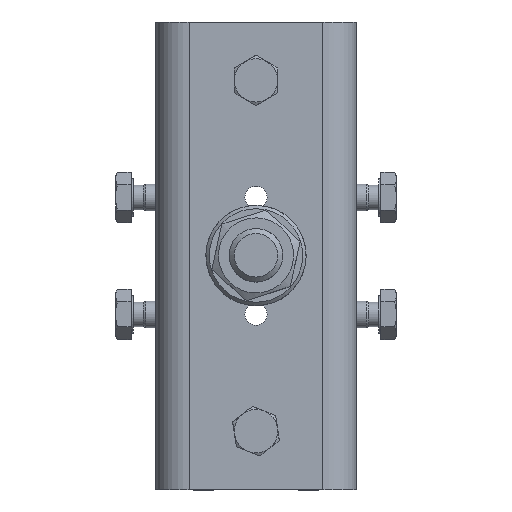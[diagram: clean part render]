
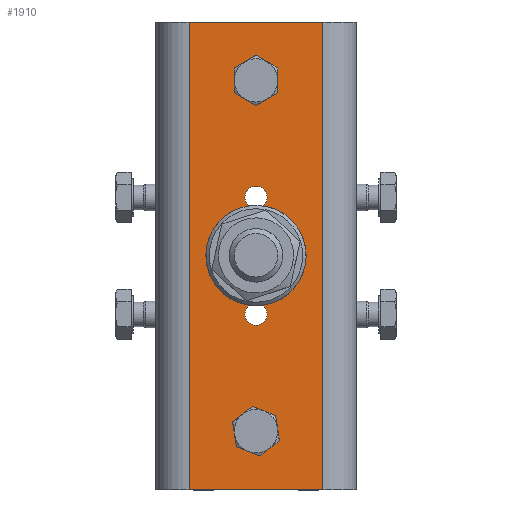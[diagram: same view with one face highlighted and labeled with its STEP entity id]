
A CAD part, top view. The second image highlights one B-rep face of the part: STEP entity #1910.
In plain terms, the highlighted planar face has unit normal (0, 0, 1).
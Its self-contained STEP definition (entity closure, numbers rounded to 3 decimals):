
#137=FACE_BOUND('',#359,.T.);
#138=FACE_BOUND('',#360,.T.);
#139=FACE_BOUND('',#361,.T.);
#140=FACE_BOUND('',#362,.T.);
#170=PLANE('',#2162);
#239=FACE_OUTER_BOUND('',#358,.T.);
#358=EDGE_LOOP('',(#1353,#1354,#1355,#1356));
#359=EDGE_LOOP('',(#1357,#1358));
#360=EDGE_LOOP('',(#1359,#1360));
#361=EDGE_LOOP('',(#1361,#1362));
#362=EDGE_LOOP('',(#1363,#1364));
#507=LINE('',#3076,#644);
#509=LINE('',#3080,#646);
#510=LINE('',#3082,#647);
#511=LINE('',#3083,#648);
#644=VECTOR('',#2442,10.);
#646=VECTOR('',#2446,10.);
#647=VECTOR('',#2447,10.);
#648=VECTOR('',#2448,10.);
#782=CIRCLE('',#2163,3.324);
#783=CIRCLE('',#2164,3.324);
#784=CIRCLE('',#2165,3.324);
#785=CIRCLE('',#2166,3.324);
#786=CIRCLE('',#2167,3.324);
#787=CIRCLE('',#2168,3.324);
#788=CIRCLE('',#2169,3.324);
#789=CIRCLE('',#2170,3.324);
#892=VERTEX_POINT('',#3060);
#895=VERTEX_POINT('',#3067);
#897=VERTEX_POINT('',#3079);
#898=VERTEX_POINT('',#3081);
#899=VERTEX_POINT('',#3084);
#900=VERTEX_POINT('',#3085);
#901=VERTEX_POINT('',#3088);
#902=VERTEX_POINT('',#3089);
#903=VERTEX_POINT('',#3092);
#904=VERTEX_POINT('',#3093);
#905=VERTEX_POINT('',#3096);
#906=VERTEX_POINT('',#3097);
#1068=EDGE_CURVE('',#892,#895,#507,.T.);
#1070=EDGE_CURVE('',#895,#897,#509,.T.);
#1071=EDGE_CURVE('',#897,#898,#510,.T.);
#1072=EDGE_CURVE('',#898,#892,#511,.T.);
#1073=EDGE_CURVE('',#899,#900,#782,.T.);
#1074=EDGE_CURVE('',#900,#899,#783,.T.);
#1075=EDGE_CURVE('',#901,#902,#784,.T.);
#1076=EDGE_CURVE('',#902,#901,#785,.T.);
#1077=EDGE_CURVE('',#903,#904,#786,.T.);
#1078=EDGE_CURVE('',#904,#903,#787,.T.);
#1079=EDGE_CURVE('',#905,#906,#788,.T.);
#1080=EDGE_CURVE('',#906,#905,#789,.T.);
#1353=ORIENTED_EDGE('',*,*,#1068,.T.);
#1354=ORIENTED_EDGE('',*,*,#1070,.T.);
#1355=ORIENTED_EDGE('',*,*,#1071,.T.);
#1356=ORIENTED_EDGE('',*,*,#1072,.T.);
#1357=ORIENTED_EDGE('',*,*,#1073,.T.);
#1358=ORIENTED_EDGE('',*,*,#1074,.T.);
#1359=ORIENTED_EDGE('',*,*,#1075,.T.);
#1360=ORIENTED_EDGE('',*,*,#1076,.T.);
#1361=ORIENTED_EDGE('',*,*,#1077,.T.);
#1362=ORIENTED_EDGE('',*,*,#1078,.T.);
#1363=ORIENTED_EDGE('',*,*,#1079,.T.);
#1364=ORIENTED_EDGE('',*,*,#1080,.T.);
#1910=ADVANCED_FACE('',(#239,#137,#138,#139,#140),#170,.T.);
#2162=AXIS2_PLACEMENT_3D('',#3078,#2444,#2445);
#2163=AXIS2_PLACEMENT_3D('',#3086,#2449,#2450);
#2164=AXIS2_PLACEMENT_3D('',#3087,#2451,#2452);
#2165=AXIS2_PLACEMENT_3D('',#3090,#2453,#2454);
#2166=AXIS2_PLACEMENT_3D('',#3091,#2455,#2456);
#2167=AXIS2_PLACEMENT_3D('',#3094,#2457,#2458);
#2168=AXIS2_PLACEMENT_3D('',#3095,#2459,#2460);
#2169=AXIS2_PLACEMENT_3D('',#3098,#2461,#2462);
#2170=AXIS2_PLACEMENT_3D('',#3099,#2463,#2464);
#2442=DIRECTION('',(0.,1.,0.));
#2444=DIRECTION('center_axis',(0.,0.,1.));
#2445=DIRECTION('ref_axis',(1.,0.,0.));
#2446=DIRECTION('',(-1.,0.,0.));
#2447=DIRECTION('',(0.,-1.,0.));
#2448=DIRECTION('',(1.,0.,0.));
#2449=DIRECTION('center_axis',(0.,0.,-1.));
#2450=DIRECTION('ref_axis',(1.,0.,0.));
#2451=DIRECTION('center_axis',(0.,0.,-1.));
#2452=DIRECTION('ref_axis',(1.,0.,0.));
#2453=DIRECTION('center_axis',(0.,0.,-1.));
#2454=DIRECTION('ref_axis',(1.,0.,0.));
#2455=DIRECTION('center_axis',(0.,0.,-1.));
#2456=DIRECTION('ref_axis',(1.,0.,0.));
#2457=DIRECTION('center_axis',(0.,0.,-1.));
#2458=DIRECTION('ref_axis',(1.,0.,0.));
#2459=DIRECTION('center_axis',(0.,0.,-1.));
#2460=DIRECTION('ref_axis',(1.,0.,0.));
#2461=DIRECTION('center_axis',(0.,0.,-1.));
#2462=DIRECTION('ref_axis',(1.,0.,0.));
#2463=DIRECTION('center_axis',(0.,0.,-1.));
#2464=DIRECTION('ref_axis',(1.,0.,0.));
#3060=CARTESIAN_POINT('',(20.,-70.,0.));
#3067=CARTESIAN_POINT('',(20.,70.,0.));
#3076=CARTESIAN_POINT('',(20.,35.,0.));
#3078=CARTESIAN_POINT('Origin',(78.672,0.,0.));
#3079=CARTESIAN_POINT('',(-20.,70.,0.));
#3080=CARTESIAN_POINT('',(81.679,70.,0.));
#3081=CARTESIAN_POINT('',(-20.,-70.,0.));
#3082=CARTESIAN_POINT('',(-20.,-35.,0.));
#3083=CARTESIAN_POINT('',(-81.679,-70.,0.));
#3084=CARTESIAN_POINT('',(3.323,52.5,0.));
#3085=CARTESIAN_POINT('',(-3.324,52.5,0.));
#3086=CARTESIAN_POINT('Origin',(0.,52.5,0.));
#3087=CARTESIAN_POINT('Origin',(0.,52.5,0.));
#3088=CARTESIAN_POINT('',(3.324,-52.5,0.));
#3089=CARTESIAN_POINT('',(-3.323,-52.5,0.));
#3090=CARTESIAN_POINT('Origin',(0.,-52.5,0.));
#3091=CARTESIAN_POINT('Origin',(0.,-52.5,0.));
#3092=CARTESIAN_POINT('',(3.324,17.5,0.));
#3093=CARTESIAN_POINT('',(-3.324,17.5,0.));
#3094=CARTESIAN_POINT('Origin',(0.,17.5,0.));
#3095=CARTESIAN_POINT('Origin',(0.,17.5,0.));
#3096=CARTESIAN_POINT('',(3.324,-17.5,0.));
#3097=CARTESIAN_POINT('',(-3.324,-17.5,0.));
#3098=CARTESIAN_POINT('Origin',(0.,-17.5,0.));
#3099=CARTESIAN_POINT('Origin',(0.,-17.5,0.));
